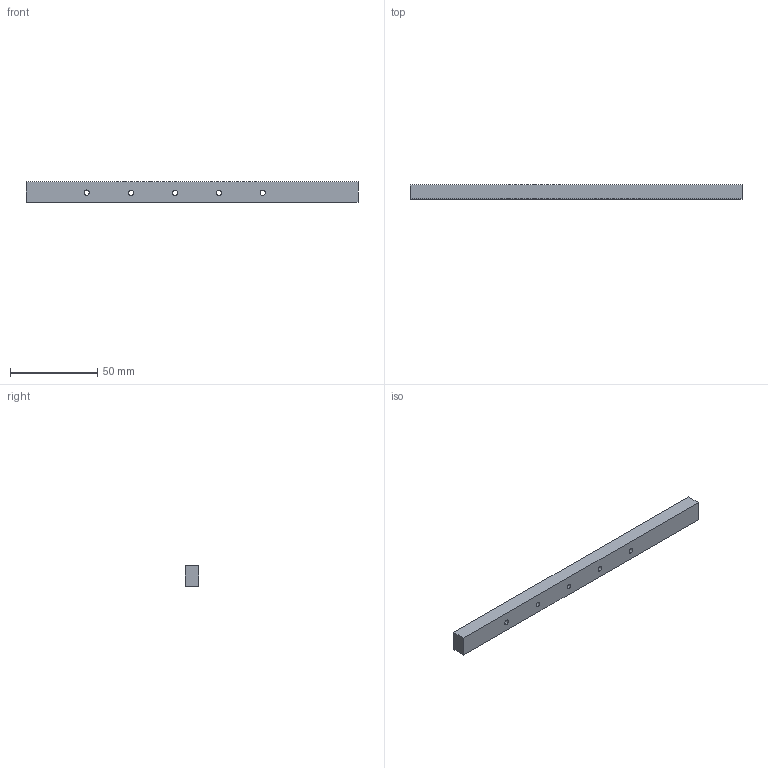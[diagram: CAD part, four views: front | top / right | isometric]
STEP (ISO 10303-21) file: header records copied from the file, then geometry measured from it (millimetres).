
FILE_DESCRIPTION(/* description */ ('STEP AP242 Edition 2','CAx-IF Rec.Pracs.---Representation and Presentation of Product Manufacturing Information (PMI)---4.0---2014-10-13','CAx-IF Rec.Pracs.---3D Tessellated Geometry---0.4---2014-09-14','2;1','CAx-IF Rec.Pracs.---User Defined Attributes---1.5---2016-08-15'),/* implementation_level */ '2;1');
FILE_NAME(/* name */ 'Assembly 1 - Part 7',/* time_stamp */ '2026-10-08T06:00:18Z',/* author */ (''),/* organization */ (''),/* preprocessor_version */ 'ST-DEVELOPER v20',/* originating_system */ 'ONSHAPE BY PTC INC, 1.221',/* authorisation */ ' ');
FILE_SCHEMA (('AP242_MANAGED_MODEL_BASED_3D_ENGINEERING_MIM_LF { 1 0 10303 442 3 1 4 }'));
Length unit declared in the file: metre
Products named in the file (1): Part 7
Bounding box: 190 x 8 x 12 mm (x, y, z)
Volume: 17949.5 mm3; surface area: 8095.1 mm2
Topology: 1 solids, 1 shells, 16 faces, 42 edges, 28 vertices
Faces by surface type: bspline 16
Entity records: 558 total; most frequent: CARTESIAN_POINT 185, ORIENTED_EDGE 84, DIRECTION 54, EDGE_CURVE 42, VERTEX_POINT 28, EDGE_LOOP 26, FACE_BOUND 26, AXIS2_PLACEMENT_3D 21
